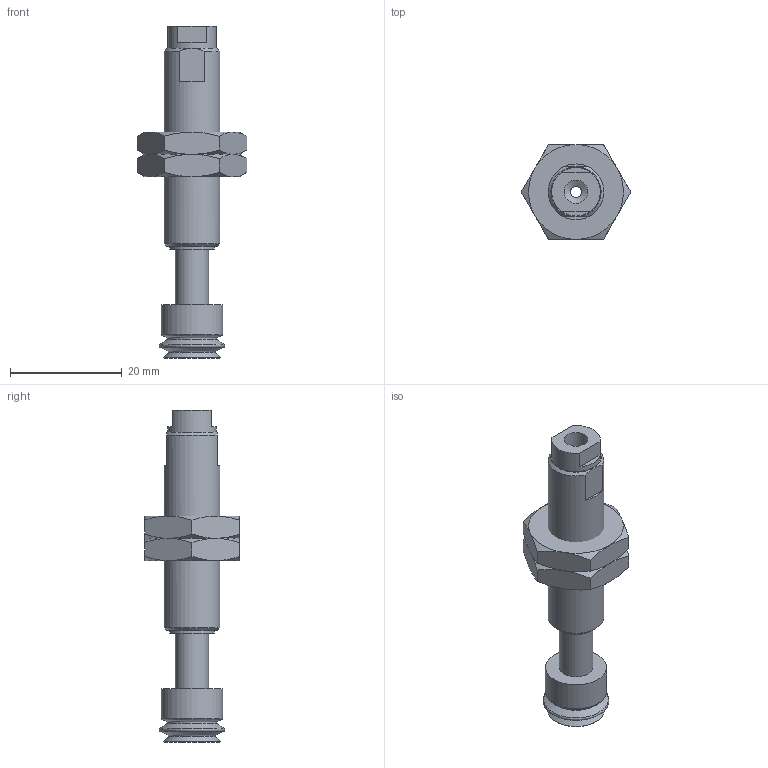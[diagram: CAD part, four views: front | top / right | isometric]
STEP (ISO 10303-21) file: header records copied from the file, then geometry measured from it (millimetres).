
FILE_DESCRIPTION(('STEP AP203'),'1');
FILE_NAME('-LB.stp','2025-04-25T02:04:31',(' '),(' '),'Spatial InterOp 3D',' ',' ');
FILE_SCHEMA(('CONFIG_CONTROL_DESIGN'));
Length unit declared in the file: millimetre
Products named in the file (7): BNABPJTH-10-10-※-LB; __; BODY; NUT; BPJG-10-_; TN-PF-15-M5
Assembly tree (6 placements, depth 2):
  BNABPJTH-10-10-※-LB
    __
    BODY
    NUT
    NUT
    BPJG-10-_
    TN-PF-15-M5
Bounding box: 19.63 x 17 x 59.5 mm (x, y, z)
Volume: 5170.1 mm3; surface area: 4468.1 mm2
Topology: 6 solids, 6 shells, 103 faces, 221 edges, 135 vertices
Faces by surface type: plane 43, cone 37, cylinder 16, torus 7
Full cylindrical faces by diameter (mm): 2 x1, 2.5 x1, 4.2 x2, 4.6 x1, 5 x1, 6 x1, 6.266 x1, 7.8 x1, 8 x2, 8.7 x1, 9 x2, 10 x1, 11 x1
Entity records: 2968 total; most frequent: CARTESIAN_POINT 618, DIRECTION 424, ORIENTED_EDGE 352, AXIS2_PLACEMENT_3D 190, EDGE_CURVE 176, EDGE_LOOP 154, FACE_OUTER_BOUND 126, VERTEX_POINT 124
